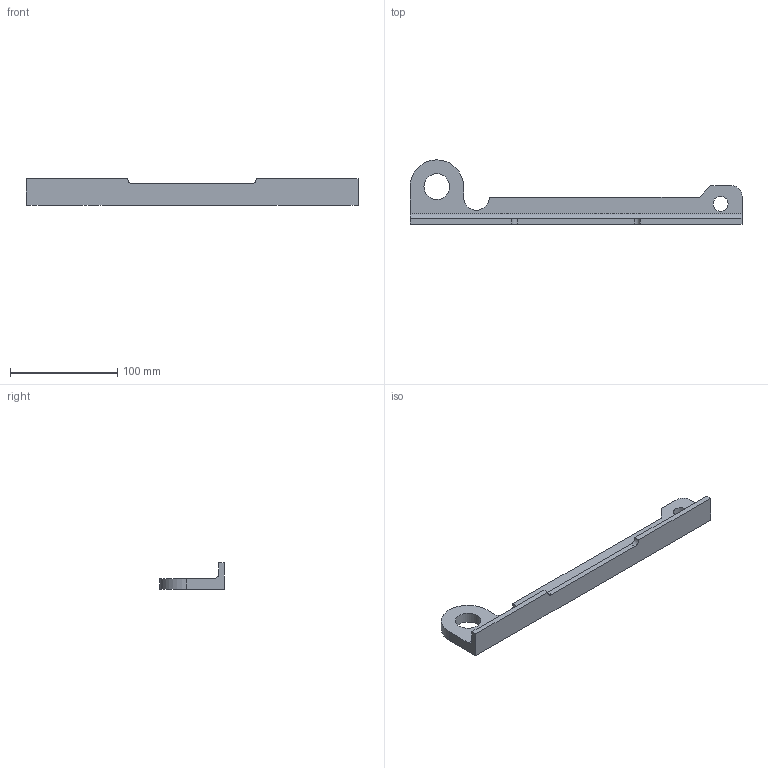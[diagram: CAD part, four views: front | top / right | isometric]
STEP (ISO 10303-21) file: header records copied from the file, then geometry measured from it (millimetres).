
FILE_DESCRIPTION(/* description */ ('CAx-IF Rec.Pracs.---Representation and Presentation of Product Manufacturing Information (PMI)---4.0---2014-10-13','CAx-IF Rec.Pracs.---3D Tessellated Geometry---0.4---2014-09-14','2;1'),/* implementation_level */ '2;1');
FILE_NAME(/* name */ 'korpus2_section',/* time_stamp */ '2020-03-20T17:27:41+01:00',/* author */ (''),/* organization */ (''),/* preprocessor_version */ 'ST-DEVELOPER v16.7',/* originating_system */ 'SIEMENS PLM Software NX 1847',/* authorisation */ $);
FILE_SCHEMA (('AP242_MANAGED_MODEL_BASED_3D_ENGINEERING_MIM_LF { 1 0 10303 442 1 1 4 }'));
Length unit declared in the file: millimetre
Products named in the file (1): korpus2_section
Bounding box: 310 x 60 x 25 mm (x, y, z)
Volume: 109539.5 mm3; surface area: 33788.8 mm2
Topology: 1 solids, 1 shells, 21 faces, 57 edges, 38 vertices
Faces by surface type: plane 13, cylinder 8
Full cylindrical faces by diameter (mm): 14 x1, 24 x1
Entity records: 943 total; most frequent: CARTESIAN_POINT 139, DIRECTION 131, ORIENTED_EDGE 110, EDGE_CURVE 55, AXIS2_PLACEMENT_3D 54, LINE 39, VECTOR 39, VERTEX_POINT 38
